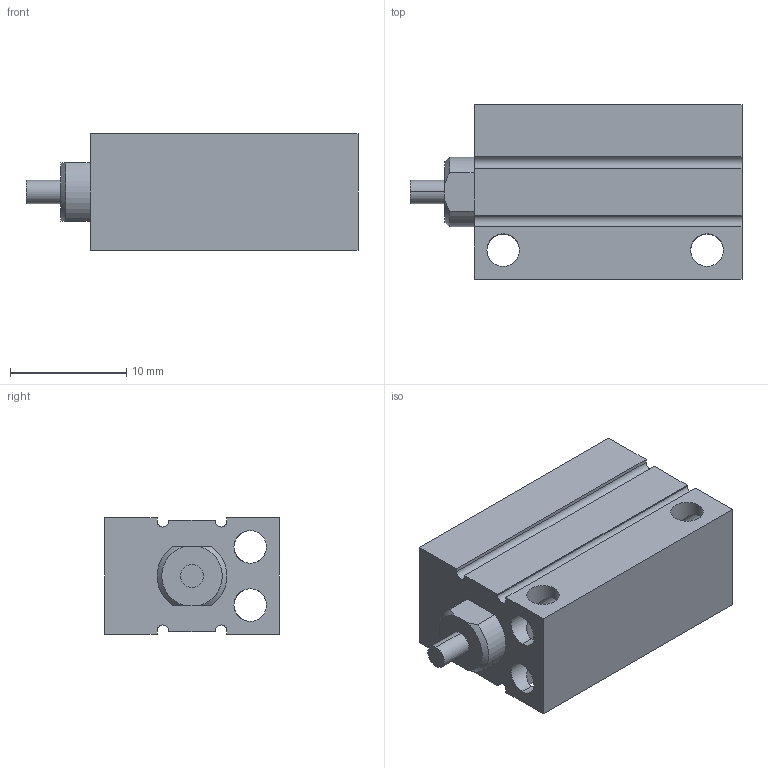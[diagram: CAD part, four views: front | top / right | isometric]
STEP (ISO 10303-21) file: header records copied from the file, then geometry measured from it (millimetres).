
FILE_DESCRIPTION (( 'STEP AP203' ), '1' );
FILE_NAME ('CLJB4-10.STEP', '2020-07-30T18:41:05', ( '' ), ( '' ), 'SwSTEP 2.0', 'SolidWorks 2019', '' );
FILE_SCHEMA (( 'CONFIG_CONTROL_DESIGN' ));
Length unit declared in the file: millimetre
Products named in the file (1): CLJB4-10
Bounding box: 28.5 x 15 x 10 mm (x, y, z)
Volume: 2944.8 mm3; surface area: 2396.9 mm2
Topology: 2 solids, 2 shells, 80 faces, 208 edges, 126 vertices
Faces by surface type: cylinder 44, plane 26, cone 10
Entity records: 2501 total; most frequent: CARTESIAN_POINT 519, ORIENTED_EDGE 408, DIRECTION 392, EDGE_CURVE 204, AXIS2_PLACEMENT_3D 143, VERTEX_POINT 126, LINE 106, VECTOR 106
